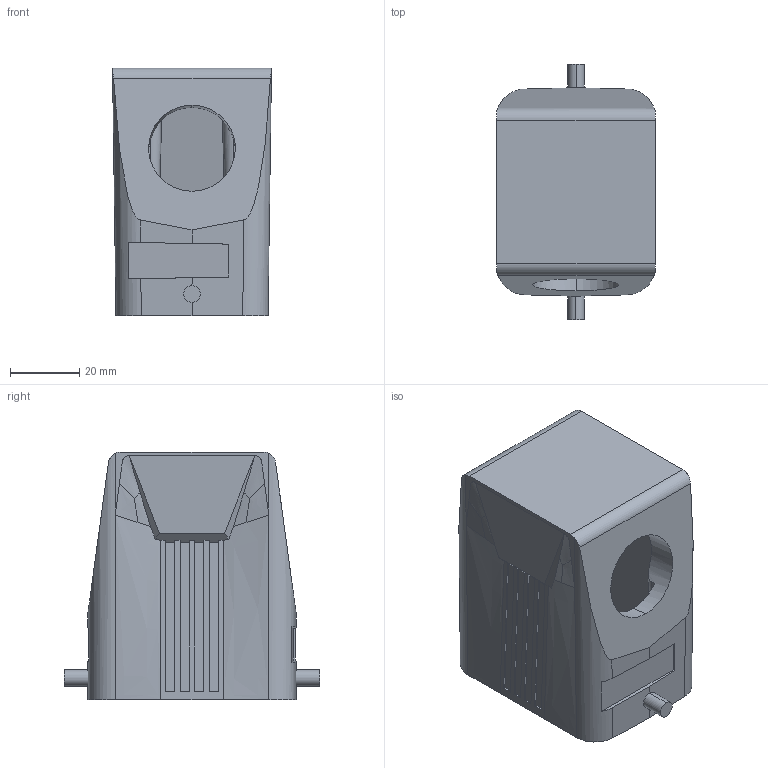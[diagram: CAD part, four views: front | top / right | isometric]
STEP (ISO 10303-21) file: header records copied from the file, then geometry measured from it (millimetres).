
FILE_DESCRIPTION(('SolidDesigner STEP Export'),'2;1');
FILE_NAME('1412562_HC_STA_B06_HHFS_1STM25_EL_AL-select.stp','2016-12-15T13:57:47',(''),(''),'Creo Elements/Direct Modeling STEP processor for AP214 (Solid Model)','Creo Elements/Direct Modeling 18.1G 27-Feb-2015 (C) Parametric Technology GmbH','');
FILE_SCHEMA(('AUTOMOTIVE_DESIGN { 1 0 10303 214 1 1 1 1 }'));
Length unit declared in the file: millimetre
Products named in the file (2): 1412562_HC_STA_B06_HHFS_1STM25_EL_AL-select
Assembly tree (1 placements, depth 2):
  1412562_HC_STA_B06_HHFS_1STM25_EL_AL-select
    1412562_HC_STA_B06_HHFS_1STM25_EL_AL-select
Bounding box: 45.8 x 73.5 x 71.42 mm (x, y, z)
Volume: 62823.4 mm3; surface area: 29625.9 mm2
Topology: 1 solids, 1 shells, 172 faces, 480 edges, 312 vertices
Faces by surface type: plane 108, cylinder 38, bspline 16, cone 10
Entity records: 11643 total; most frequent: CARTESIAN_POINT 6073, ORIENTED_EDGE 944, DIRECTION 728, EDGE_CURVE 472, VECTOR 334, LINE 334, VERTEX_POINT 312, AXIS2_PLACEMENT_3D 197
